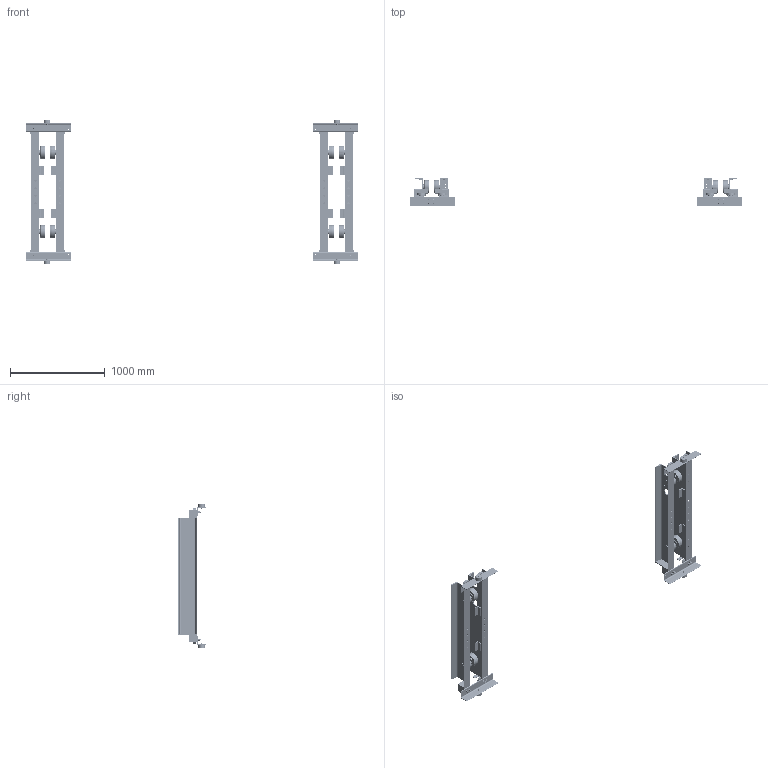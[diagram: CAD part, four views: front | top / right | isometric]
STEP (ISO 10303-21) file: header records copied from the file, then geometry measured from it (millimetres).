
FILE_DESCRIPTION (( 'STEP AP214' ), '1' );
FILE_NAME ('UP-3-0535.STEP', '2026-08-12T13:16:57', ( '' ), ( '' ), 'SwSTEP 2.0', 'SolidWorks 2026', '' );
FILE_SCHEMA (( 'AUTOMOTIVE_DESIGN' ));
Length unit declared in the file: inch
Products named in the file (49): 9093424_9093424; 6257002_A308-308-006; 6232303; N6QO310E9108_N6QO3101108 DOMESTIC; 6257003; 9047125_B27.7M - 3AM1-23; UP-3-0535; 62342XXU_6234202U; 9000605; 62340XXU_6234002U; 6233203; 6232404; MC08-021.4_48; 6257005; 9093433_9093433; 6232603; 6234503; N6QL210207; 9093101_9093101; 6232304; 62338XXU_6233802U; 9047268_B27.7M - 3BM1-68; 62343XXU_6234302U; 62339XXU_6233902U; 62341XXU_6234102U; 9047252_9047252; 5204405_5204405; 6234701X_6234701C; 9093146_9093146; 6234702X_6234702C; 9047140_9047140; 6257001; 9012514_9012514; 6232403; 9012515_9012515; 9000508; N6QO3101108_N6QO3101108
Assembly tree (188 placements, depth 5):
  UP-3-0535
    62341XXU_6234102U
      62338XXU_6233802U
        MC08-021.4_48
        6257003
          6257002_A308-308-006
          6257001
        6257003
          6257002_A308-308-006
          6257001
      6232303  x2
      6232304  x2
      5204405_5204405  x2
      6233203  x2
      6257005
    62342XXU_6234202U  x2
      62339XXU_6233902U
        MC08-021.4_48
        6257003
          6257002_A308-308-006
          6257001
        6257003
          6257002_A308-308-006
          6257001
      6232303
      6232304
      5204405_5204405
      6233203
    62343XXU_6234302U
      62340XXU_6234002U
        MC08-021.4_48
        6257003
          6257002_A308-308-006
          6257001
        6257003
          6257002_A308-308-006
          6257001
      6232303  x2
      6232304  x2
      5204405_5204405  x2
      6233203  x2
      6257005
    6234503  x8
      6232603
      9047268_B27.7M - 3BM1-68
      9000508
    6232403  x8
    9047140_9047140  x8
    6232404  x8
    9047125_B27.7M - 3AM1-23  x8
    9012515_9012515  x15
    9093433_9093433  x32
    9093146_9093146  x8
    N6QL210207  x4
    9012514_9012514  x4
    9093101_9093101  x4
    9093424_9093424  x8
    N6QO3101108_N6QO3101108  x8
      N6QO310E9108_N6QO3101108 DOMESTIC
      9047252_9047252
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Bounding box: 3503.22 x 292.1 x 1525.81 mm (x, y, z)
Volume: 31140775.9 mm3; surface area: 6376238.3 mm2
Topology: 197 solids, 293 shells, 15142 faces, 39516 edges, 26184 vertices
Faces by surface type: plane 10122, cylinder 2556, bspline 1280, cone 1096, torus 88
Entity records: 61826 total; most frequent: CARTESIAN_POINT 18543, ORIENTED_EDGE 8846, DIRECTION 8149, EDGE_CURVE 4427, AXIS2_PLACEMENT_3D 2950, VERTEX_POINT 2934, VECTOR 2249, LINE 2249
